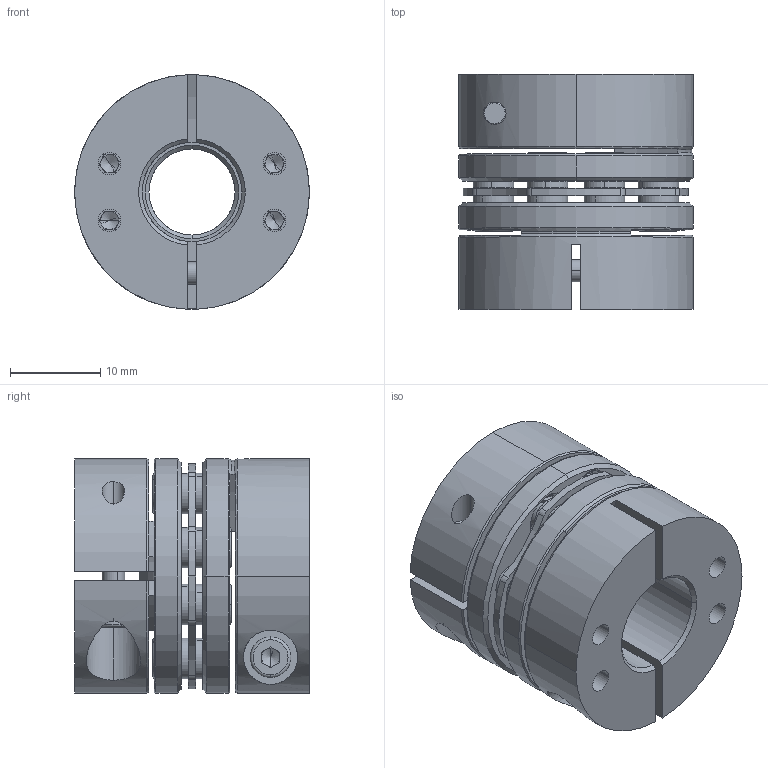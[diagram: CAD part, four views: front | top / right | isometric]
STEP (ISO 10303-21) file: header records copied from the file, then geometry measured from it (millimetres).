
FILE_DESCRIPTION (( 'STEP AP203' ), '1' );
FILE_NAME ('LDG-D26-9.525-11.STEP', '2021-10-28T04:29:20', ( '' ), ( '' ), 'SwSTEP 2.0', 'SolidWorks 2018', '' );
FILE_SCHEMA (( 'CONFIG_CONTROL_DESIGN' ));
Length unit declared in the file: millimetre
Products named in the file (2): LDG-D26-9.525-11; 錨璃2^LDG-D26蚾饜芞1
Assembly tree (1 placements, depth 2):
  LDG-D26-9.525-11
    錨璃2^LDG-D26蚾饜芞1
Bounding box: 26 x 26 x 26 mm (x, y, z)
Volume: 9425.6 mm3; surface area: 8881.6 mm2
Topology: 1 solids, 21 shells, 765 faces, 1872 edges, 1159 vertices
Faces by surface type: cylinder 301, plane 244, cone 200, torus 20
Entity records: 23057 total; most frequent: DIRECTION 4281, CARTESIAN_POINT 4164, ORIENTED_EDGE 3688, EDGE_CURVE 1844, AXIS2_PLACEMENT_3D 1740, VERTEX_POINT 1159, CIRCLE 971, EDGE_LOOP 909
